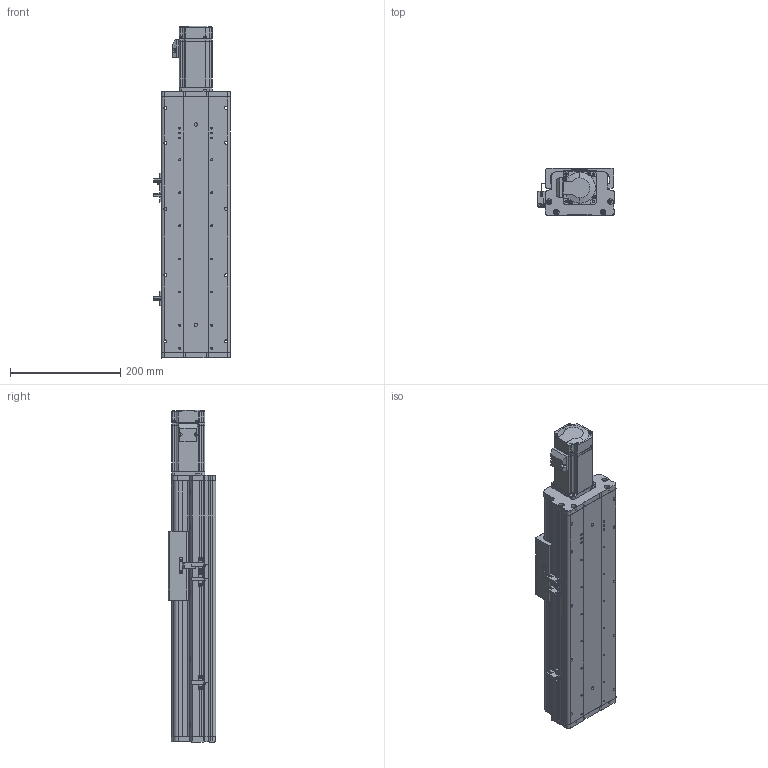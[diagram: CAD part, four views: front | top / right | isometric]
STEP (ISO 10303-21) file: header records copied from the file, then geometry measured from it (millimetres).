
FILE_DESCRIPTION (( 'STEP AP214' ), '1' );
FILE_NAME ('KSD125S-S200-MN-CM.STEP', '2017-08-07T06:07:03', ( '微软用户' ), ( '微软中国' ), 'SwSTEP 2.0', 'SolidWorks 2014', '' );
FILE_SCHEMA (( 'AUTOMOTIVE_DESIGN' ));
Length unit declared in the file: millimetre
Products named in the file (12): U倰嫖萇假蚾璃; U倰嫖萇EEㄜSX672; KSD125-賑雄釱1; CS-34X32-10X14; 125-帣傷啣1; KSD125S-S200-MN-CM; KSD125S-200行程丝杆防尘盖-直连不带电机座; KSD125S-200行程丝杆底板-直连不带电机座; 125宽模组 - 直连不带电机座电机安装板; MHMD042G1CA_2_03; 拸萇儂釱滅袉菜; 覜茼え68遵圉猾敕
Assembly tree (15 placements, depth 2):
  KSD125S-S200-MN-CM
    125-帣傷啣1
    CS-34X32-10X14
    KSD125-賑雄釱1
    U倰嫖萇EEㄜSX672  x3
    U倰嫖萇假蚾璃  x3
    覜茼え68遵圉猾敕
    拸萇儂釱滅袉菜
    MHMD042G1CA_2_03
    125宽模组 - 直连不带电机座电机安装板
    KSD125S-200行程丝杆底板-直连不带电机座
    KSD125S-200行程丝杆防尘盖-直连不带电机座
Bounding box: 138.7 x 86 x 601.5 mm (x, y, z)
Volume: 1851228.5 mm3; surface area: 625399.8 mm2
Topology: 14 solids, 17 shells, 1406 faces, 4065 edges, 2673 vertices
Faces by surface type: cylinder 680, plane 613, cone 91, bspline 22
Entity records: 49158 total; most frequent: CARTESIAN_POINT 10584, DIRECTION 6941, ORIENTED_EDGE 6638, EDGE_CURVE 3397, AXIS2_PLACEMENT_3D 2528, VERTEX_POINT 2265, LINE 1885, VECTOR 1885
